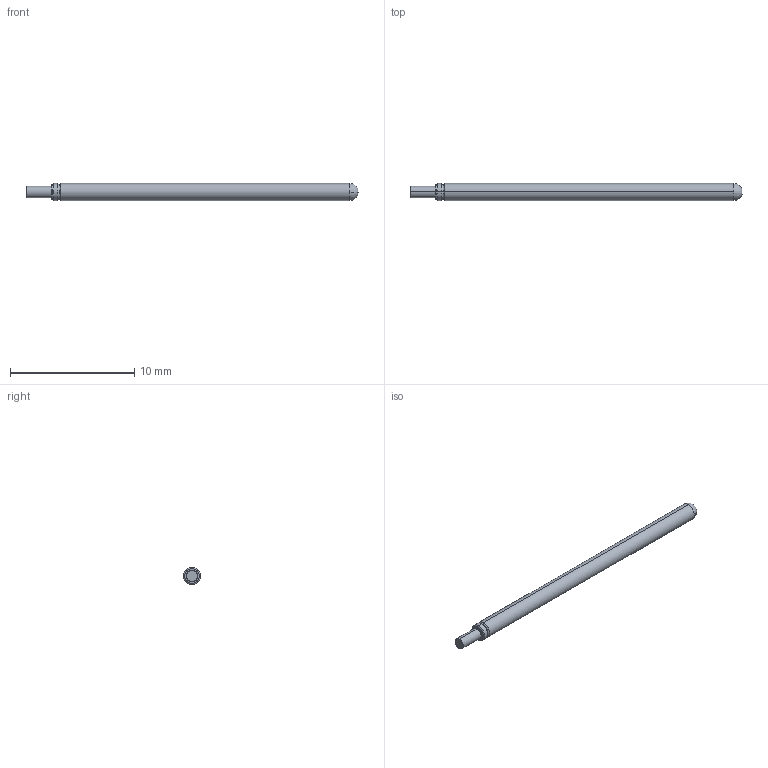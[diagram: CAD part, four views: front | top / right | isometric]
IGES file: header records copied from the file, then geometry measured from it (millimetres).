
Start section: SolidWorks IGES file using analytic representation for surfaces
Global section: file name: Z:\probe solid model mockups\Solidworks models\POGO-25 IGS files\POGO-25Default Full.IGS; native system: SolidWorks 2006 by SolidWorks Corporation; preprocessor: SolidWorks 2006 by SolidWorks Corporation; author: tsakatani; date: 071214.083939; units: inch
Bounding box: 26.67 x 1.37 x 1.37 mm (x, y, z)
Surface area: 113.6 mm2 (no closed solid volume)
Topology: 0 solids, 0 shells, 19 faces, 132 edges, 132 vertices
Faces by surface type: revolution 12, bspline 7
